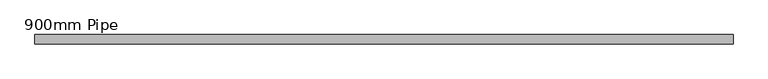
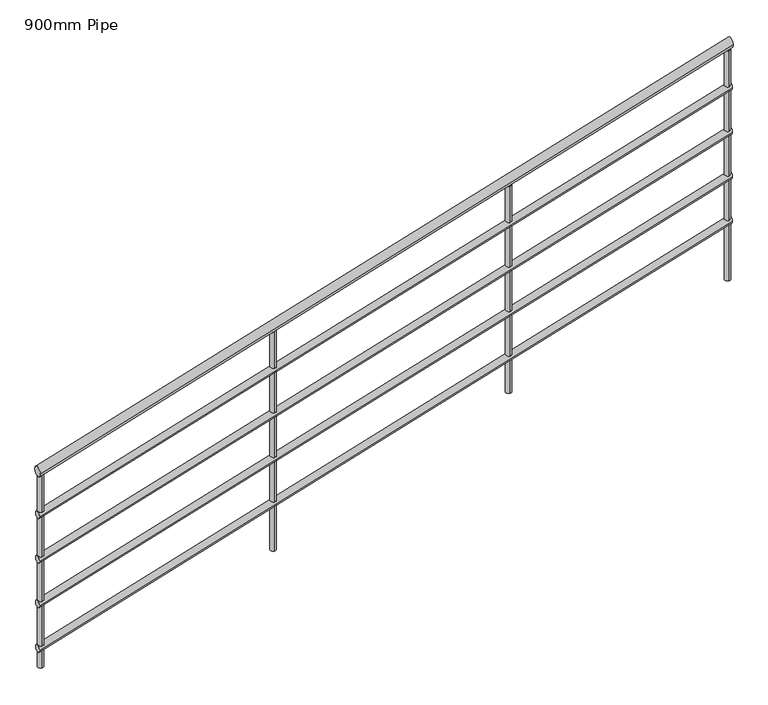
"""IFC4 building model written with IfcOpenShell, lengths in millimetres: railing geometry, 900mm Pipe."""

from ifc_helpers import new_model, si_unit, frame, origin, place, context, project, spatial, circle_curve, ellipse_curve, source, transform, mapped, element, save
from ifc_brep_helpers import plane_surface, cylinder_surface, advanced_brep


def railing_900mm_pipe_21d8ad47(model_context):
    return source(origin(), model_context, "Body", "AdvancedBrep", [
        advanced_brep(
        [(889144.9961928, 83116.8219152, 5058.386247), (889144.9961928, 83156.8219152, 5058.386247), (892087.0500527, 83116.8219152, 5954.8568352), (892087.0500527, 83156.8219152, 5954.8568352)],
        [
            (0, 1, ellipse_curve(frame((889144.9961928, 83136.8219152, 5058.386247), z_axis=(-1.0, 0.0, 0.0), x_axis=(0.0, 0.0, -1.0)), 20.9078706, 20.0)),
            (1, 0, ellipse_curve(frame((889144.9961928, 83136.8219152, 5058.386247), z_axis=(-1.0, 0.0, 0.0), x_axis=(0.0, 0.0, -1.0)), 20.9078706, 20.0)),
            (2, 3, ellipse_curve(frame((892087.0500527, 83136.8219152, 5954.8568352), z_axis=(1.0, 0.0, 0.0), x_axis=(0.0, 0.0, -1.0)), 20.9078706, 20.0)),
            (3, 2, ellipse_curve(frame((892087.0500527, 83136.8219152, 5954.8568352), z_axis=(1.0, 0.0, 0.0), x_axis=(0.0, 0.0, -1.0)), 20.9078706, 20.0)),
            (1, 3),
            (2, 0),
        ],
        [
            plane_surface(frame((889144.9961928, 83136.8219152, 5079.2941176), z_axis=(-1.0, 0.0, 0.0), x_axis=(0.0, 1.0, 0.0))),
            plane_surface(frame((892087.0500527, 83136.8219152, 5975.7647059), z_axis=(1.0, 0.0, 0.0), x_axis=(0.0, 1.0, 0.0))),
            cylinder_surface(frame((889150.8257506, 83136.8219152, 5060.1625663), z_axis=(-0.9565775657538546, 0.0, -0.2914778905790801), x_axis=(0.0, 1.0, 0.0)), 20.0),
        ],
        [
            (0, [[1, 2]]),
            (1, [[3, 4]]),
            (2, [[-2, 5, -3, 6]]),
            (2, [[-1, -6, -4, -5]]),
        ],
    ),
        advanced_brep(
        [(889144.9961928, 83121.8219152, 4863.6132147), (889144.9961928, 83151.8219152, 4863.6132147), (892087.0500527, 83121.8219152, 5760.0838029), (892087.0500527, 83151.8219152, 5760.0838029)],
        [
            (0, 1, ellipse_curve(frame((889144.9961928, 83136.8219152, 4863.6132147), z_axis=(-1.0, 0.0, 0.0), x_axis=(0.0, 0.0, -1.0)), 15.680903, 15.0)),
            (1, 0, ellipse_curve(frame((889144.9961928, 83136.8219152, 4863.6132147), z_axis=(-1.0, 0.0, 0.0), x_axis=(0.0, 0.0, -1.0)), 15.680903, 15.0)),
            (2, 3, ellipse_curve(frame((892087.0500527, 83136.8219152, 5760.0838029), z_axis=(1.0, 0.0, 0.0), x_axis=(0.0, 0.0, -1.0)), 15.680903, 15.0)),
            (3, 2, ellipse_curve(frame((892087.0500527, 83136.8219152, 5760.0838029), z_axis=(1.0, 0.0, 0.0), x_axis=(0.0, 0.0, -1.0)), 15.680903, 15.0)),
            (0, 2),
            (3, 1),
        ],
        [
            plane_surface(frame((889144.9961928, 83136.8219152, 4879.2941176), z_axis=(-1.0, 0.0, 0.0), x_axis=(0.0, 1.0, 0.0))),
            plane_surface(frame((892087.0500527, 83136.8219152, 5775.7647059), z_axis=(1.0, 0.0, 0.0), x_axis=(0.0, 1.0, 0.0))),
            cylinder_surface(frame((889149.3683611, 83136.8219152, 4864.9454542), z_axis=(-0.9565775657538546, 0.0, -0.2914778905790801), x_axis=(0.0, 1.0, 0.0)), 15.0),
        ],
        [
            (0, [[1, 2]]),
            (1, [[3, 4]]),
            (2, [[-1, 5, -4, 6]]),
            (2, [[-2, -6, -3, -5]]),
        ],
    ),
        advanced_brep(
        [(889144.9961928, 83121.8219152, 4663.6132147), (889144.9961928, 83151.8219152, 4663.6132147), (892087.0500527, 83121.8219152, 5560.0838029), (892087.0500527, 83151.8219152, 5560.0838029)],
        [
            (0, 1, ellipse_curve(frame((889144.9961928, 83136.8219152, 4663.6132147), z_axis=(-1.0, 0.0, 0.0), x_axis=(0.0, 0.0, -1.0)), 15.680903, 15.0)),
            (1, 0, ellipse_curve(frame((889144.9961928, 83136.8219152, 4663.6132147), z_axis=(-1.0, 0.0, 0.0), x_axis=(0.0, 0.0, -1.0)), 15.680903, 15.0)),
            (2, 3, ellipse_curve(frame((892087.0500527, 83136.8219152, 5560.0838029), z_axis=(1.0, 0.0, 0.0), x_axis=(0.0, 0.0, -1.0)), 15.680903, 15.0)),
            (3, 2, ellipse_curve(frame((892087.0500527, 83136.8219152, 5560.0838029), z_axis=(1.0, 0.0, 0.0), x_axis=(0.0, 0.0, -1.0)), 15.680903, 15.0)),
            (0, 2),
            (3, 1),
        ],
        [
            plane_surface(frame((889144.9961928, 83136.8219152, 4679.2941176), z_axis=(-1.0, 0.0, 0.0), x_axis=(0.0, 1.0, 0.0))),
            plane_surface(frame((892087.0500527, 83136.8219152, 5575.7647059), z_axis=(1.0, 0.0, 0.0), x_axis=(0.0, 1.0, 0.0))),
            cylinder_surface(frame((889149.3683611, 83136.8219152, 4664.9454542), z_axis=(-0.9565775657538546, 0.0, -0.2914778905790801), x_axis=(0.0, 1.0, 0.0)), 15.0),
        ],
        [
            (0, [[1, 2]]),
            (1, [[3, 4]]),
            (2, [[-1, 5, -4, 6]]),
            (2, [[-2, -6, -3, -5]]),
        ],
    ),
        advanced_brep(
        [(889144.9961928, 83121.8219152, 4463.6132147), (889144.9961928, 83151.8219152, 4463.6132147), (892087.0500527, 83121.8219152, 5360.0838029), (892087.0500527, 83151.8219152, 5360.0838029)],
        [
            (0, 1, ellipse_curve(frame((889144.9961928, 83136.8219152, 4463.6132147), z_axis=(-1.0, 0.0, 0.0), x_axis=(0.0, 0.0, -1.0)), 15.680903, 15.0)),
            (1, 0, ellipse_curve(frame((889144.9961928, 83136.8219152, 4463.6132147), z_axis=(-1.0, 0.0, 0.0), x_axis=(0.0, 0.0, -1.0)), 15.680903, 15.0)),
            (2, 3, ellipse_curve(frame((892087.0500527, 83136.8219152, 5360.0838029), z_axis=(1.0, 0.0, 0.0), x_axis=(0.0, 0.0, -1.0)), 15.680903, 15.0)),
            (3, 2, ellipse_curve(frame((892087.0500527, 83136.8219152, 5360.0838029), z_axis=(1.0, 0.0, 0.0), x_axis=(0.0, 0.0, -1.0)), 15.680903, 15.0)),
            (0, 2),
            (3, 1),
        ],
        [
            plane_surface(frame((889144.9961928, 83136.8219152, 4479.2941176), z_axis=(-1.0, 0.0, 0.0), x_axis=(0.0, 1.0, 0.0))),
            plane_surface(frame((892087.0500527, 83136.8219152, 5375.7647059), z_axis=(1.0, 0.0, 0.0), x_axis=(0.0, 1.0, 0.0))),
            cylinder_surface(frame((889149.3683611, 83136.8219152, 4464.9454542), z_axis=(-0.9565775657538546, 0.0, -0.2914778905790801), x_axis=(0.0, 1.0, 0.0)), 15.0),
        ],
        [
            (0, [[1, 2]]),
            (1, [[3, 4]]),
            (2, [[-1, 5, -4, 6]]),
            (2, [[-2, -6, -3, -5]]),
        ],
    ),
        advanced_brep(
        [(889144.9961928, 83121.8219152, 4263.6132147), (889144.9961928, 83151.8219152, 4263.6132147), (892087.0500527, 83121.8219152, 5160.0838029), (892087.0500527, 83151.8219152, 5160.0838029)],
        [
            (0, 1, ellipse_curve(frame((889144.9961928, 83136.8219152, 4263.6132147), z_axis=(-1.0, 0.0, 0.0), x_axis=(0.0, 0.0, -1.0)), 15.680903, 15.0)),
            (1, 0, ellipse_curve(frame((889144.9961928, 83136.8219152, 4263.6132147), z_axis=(-1.0, 0.0, 0.0), x_axis=(0.0, 0.0, -1.0)), 15.680903, 15.0)),
            (2, 3, ellipse_curve(frame((892087.0500527, 83136.8219152, 5160.0838029), z_axis=(1.0, 0.0, 0.0), x_axis=(0.0, 0.0, -1.0)), 15.680903, 15.0)),
            (3, 2, ellipse_curve(frame((892087.0500527, 83136.8219152, 5160.0838029), z_axis=(1.0, 0.0, 0.0), x_axis=(0.0, 0.0, -1.0)), 15.680903, 15.0)),
            (0, 2),
            (3, 1),
        ],
        [
            plane_surface(frame((889144.9961928, 83136.8219152, 4279.2941176), z_axis=(-1.0, 0.0, 0.0), x_axis=(0.0, 1.0, 0.0))),
            plane_surface(frame((892087.0500527, 83136.8219152, 5175.7647059), z_axis=(1.0, 0.0, 0.0), x_axis=(0.0, 1.0, 0.0))),
            cylinder_surface(frame((889149.3683611, 83136.8219152, 4264.9454542), z_axis=(-0.9565775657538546, 0.0, -0.2914778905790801), x_axis=(0.0, 1.0, 0.0)), 15.0),
        ],
        [
            (0, [[1, 2]]),
            (1, [[3, 4]]),
            (2, [[-1, 5, -4, 6]]),
            (2, [[-2, -6, -3, -5]]),
        ],
    ),
        advanced_brep(
        [(891144.9961928, 83149.3219152, 5646.8965794), (891144.9961928, 83124.3219152, 5646.8965794), (891144.9961928, 83124.3219152, 4717.1764706), (891144.9961928, 83149.3219152, 4717.1764706)],
        [
            (0, 1, ellipse_curve(frame((891144.9961928, 83136.8219152, 5646.8965794), z_axis=(0.2914778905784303, 0.0, -0.9565775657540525), x_axis=(0.9565775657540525, 0.0, 0.2914778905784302)), 13.0674191, 12.5)),
            (1, 2),
            (2, 3, circle_curve(frame((891144.9961928, 83136.8219152, 4717.1764706), z_axis=(0.0, 0.0, 1.0), x_axis=(0.0, -1.0, 0.0)), 12.5)),
            (3, 0),
            (3, 2, circle_curve(frame((891144.9961928, 83136.8219152, 4717.1764706), z_axis=(0.0, 0.0, 1.0), x_axis=(0.0, -1.0, 0.0)), 12.5)),
            (1, 0, ellipse_curve(frame((891144.9961928, 83136.8219152, 5646.8965794), z_axis=(0.2914778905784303, 0.0, -0.9565775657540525), x_axis=(0.9565775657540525, 0.0, 0.2914778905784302)), 13.0674191, 12.5)),
        ],
        [
            cylinder_surface(frame((891144.9961928, 83136.8219152, 4617.1764706), z_axis=(0.0, 0.0, 1.0), x_axis=(0.0, -1.0, 0.0)), 12.5),
            plane_surface(frame((891169.9961928, 83111.8219152, 5654.5143069), z_axis=(-0.2914778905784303, 0.0, 0.9565775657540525), x_axis=(0.0, 1.0, 0.0))),
            plane_surface(frame((891119.9961928, 83111.8219152, 4717.1764706), z_axis=(0.0, 0.0, -1.0), x_axis=(0.0, 1.0, 0.0))),
        ],
        [
            (0, [[1, 2, 3, 4]]),
            (0, [[5, -2, 6, -4]]),
            (1, [[-6, -1]]),
            (2, [[-5, -3]]),
        ],
    ),
        advanced_brep(
        [(890144.9961928, 83149.3219152, 5342.1874779), (890144.9961928, 83124.3219152, 5342.1874779), (890144.9961928, 83124.3219152, 4358.5882353), (890144.9961928, 83149.3219152, 4358.5882353)],
        [
            (0, 1, ellipse_curve(frame((890144.9961928, 83136.8219152, 5342.1874779), z_axis=(0.2914778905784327, 0.0, -0.9565775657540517), x_axis=(0.9565775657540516, 0.0, 0.29147789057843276)), 13.0674191, 12.5)),
            (1, 2),
            (2, 3, circle_curve(frame((890144.9961928, 83136.8219152, 4358.5882353), z_axis=(0.0, 0.0, 1.0), x_axis=(0.0, -1.0, 0.0)), 12.5)),
            (3, 0),
            (3, 2, circle_curve(frame((890144.9961928, 83136.8219152, 4358.5882353), z_axis=(0.0, 0.0, 1.0), x_axis=(0.0, -1.0, 0.0)), 12.5)),
            (1, 0, ellipse_curve(frame((890144.9961928, 83136.8219152, 5342.1874779), z_axis=(0.2914778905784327, 0.0, -0.9565775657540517), x_axis=(0.9565775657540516, 0.0, 0.29147789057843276)), 13.0674191, 12.5)),
        ],
        [
            cylinder_surface(frame((890144.9961928, 83136.8219152, 4258.5882353), z_axis=(0.0, 0.0, 1.0), x_axis=(0.0, -1.0, 0.0)), 12.5),
            plane_surface(frame((890169.9961928, 83111.8219152, 5349.8052054), z_axis=(-0.2914778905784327, 0.0, 0.9565775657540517), x_axis=(0.0, 1.0, 0.0))),
            plane_surface(frame((890119.9961928, 83111.8219152, 4358.5882353), z_axis=(0.0, 0.0, -1.0), x_axis=(0.0, 1.0, 0.0))),
        ],
        [
            (0, [[1, 2, 3, 4]]),
            (0, [[5, -2, 6, -4]]),
            (1, [[-6, -1]]),
            (2, [[-5, -3]]),
        ],
    ),
        advanced_brep(
        [(892074.5500527, 83149.3219152, 5930.1401008), (892074.5500527, 83124.3219152, 5930.1401008), (892074.5500527, 83124.3219152, 4896.4705882), (892074.5500527, 83149.3219152, 4896.4705882)],
        [
            (0, 1, ellipse_curve(frame((892074.5500527, 83136.8219152, 5930.1401008), z_axis=(0.2914778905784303, 0.0, -0.9565775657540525), x_axis=(0.9565775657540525, 0.0, 0.2914778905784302)), 13.0674191, 12.5)),
            (1, 2),
            (2, 3, circle_curve(frame((892074.5500527, 83136.8219152, 4896.4705882), z_axis=(0.0, 0.0, 1.0), x_axis=(0.0, -1.0, 0.0)), 12.5)),
            (3, 0),
            (3, 2, circle_curve(frame((892074.5500527, 83136.8219152, 4896.4705882), z_axis=(0.0, 0.0, 1.0), x_axis=(0.0, -1.0, 0.0)), 12.5)),
            (1, 0, ellipse_curve(frame((892074.5500527, 83136.8219152, 5930.1401008), z_axis=(0.2914778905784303, 0.0, -0.9565775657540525), x_axis=(0.9565775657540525, 0.0, 0.2914778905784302)), 13.0674191, 12.5)),
        ],
        [
            cylinder_surface(frame((892074.5500527, 83136.8219152, 4796.4705882), z_axis=(0.0, 0.0, 1.0), x_axis=(0.0, -1.0, 0.0)), 12.5),
            plane_surface(frame((892099.5500527, 83111.8219152, 5937.7578284), z_axis=(-0.2914778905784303, 0.0, 0.9565775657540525), x_axis=(0.0, 1.0, 0.0))),
            plane_surface(frame((892049.5500527, 83111.8219152, 4896.4705882), z_axis=(0.0, 0.0, -1.0), x_axis=(0.0, 1.0, 0.0))),
        ],
        [
            (0, [[1, 2, 3, 4]]),
            (0, [[5, -2, 6, -4]]),
            (1, [[-6, -1]]),
            (2, [[-5, -3]]),
        ],
    ),
        advanced_brep(
        [(889157.4961928, 83149.3219152, 5041.2872401), (889157.4961928, 83124.3219152, 5041.2872401), (889157.4961928, 83124.3219152, 4179.2941176), (889157.4961928, 83149.3219152, 4179.2941176)],
        [
            (0, 1, ellipse_curve(frame((889157.4961928, 83136.8219152, 5041.2872401), z_axis=(0.2914778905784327, 0.0, -0.9565775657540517), x_axis=(0.9565775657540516, 0.0, 0.29147789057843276)), 13.0674191, 12.5)),
            (1, 2),
            (2, 3, circle_curve(frame((889157.4961928, 83136.8219152, 4179.2941176), z_axis=(0.0, 0.0, 1.0), x_axis=(0.0, -1.0, 0.0)), 12.5)),
            (3, 0),
            (3, 2, circle_curve(frame((889157.4961928, 83136.8219152, 4179.2941176), z_axis=(0.0, 0.0, 1.0), x_axis=(0.0, -1.0, 0.0)), 12.5)),
            (1, 0, ellipse_curve(frame((889157.4961928, 83136.8219152, 5041.2872401), z_axis=(0.2914778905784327, 0.0, -0.9565775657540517), x_axis=(0.9565775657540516, 0.0, 0.29147789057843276)), 13.0674191, 12.5)),
        ],
        [
            cylinder_surface(frame((889157.4961928, 83136.8219152, 4079.2941176), z_axis=(0.0, 0.0, 1.0), x_axis=(0.0, -1.0, 0.0)), 12.5),
            plane_surface(frame((889182.4961928, 83111.8219152, 5048.9049677), z_axis=(-0.2914778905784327, 0.0, 0.9565775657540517), x_axis=(0.0, 1.0, 0.0))),
            plane_surface(frame((889132.4961928, 83111.8219152, 4179.2941176), z_axis=(0.0, 0.0, -1.0), x_axis=(0.0, 1.0, 0.0))),
        ],
        [
            (0, [[1, 2, 3, 4]]),
            (0, [[5, -2, 6, -4]]),
            (1, [[-6, -1]]),
            (2, [[-5, -3]]),
        ],
    ),
    ])


if __name__ == "__main__":
    model = new_model("IFC4")
    model_context = context("Model", 3, world=origin())
    ifc_project = project(units=[si_unit("LENGTHUNIT", "METRE", prefix="MILLI")], contexts=[model_context])
    site = spatial("IfcSite", under=ifc_project)
    building = spatial("IfcBuilding", under=site)
    placement = place(None, origin())
    railing_900mm_pipe_shape = railing_900mm_pipe_21d8ad47(model_context)
    element("IfcRailing", 1, ObjectType="900mm Pipe", at=placement, inside=building, context=model_context, shape_type="MappedRepresentation", body=[
        mapped(railing_900mm_pipe_shape, transform((0.0, 0.0, 0.0), x_axis=(1.0, 0.0, 0.0), y_axis=(0.0, 1.0, 0.0), z_axis=(0.0, 0.0, 1.0))),
    ])
    save(model, "model.ifc")
